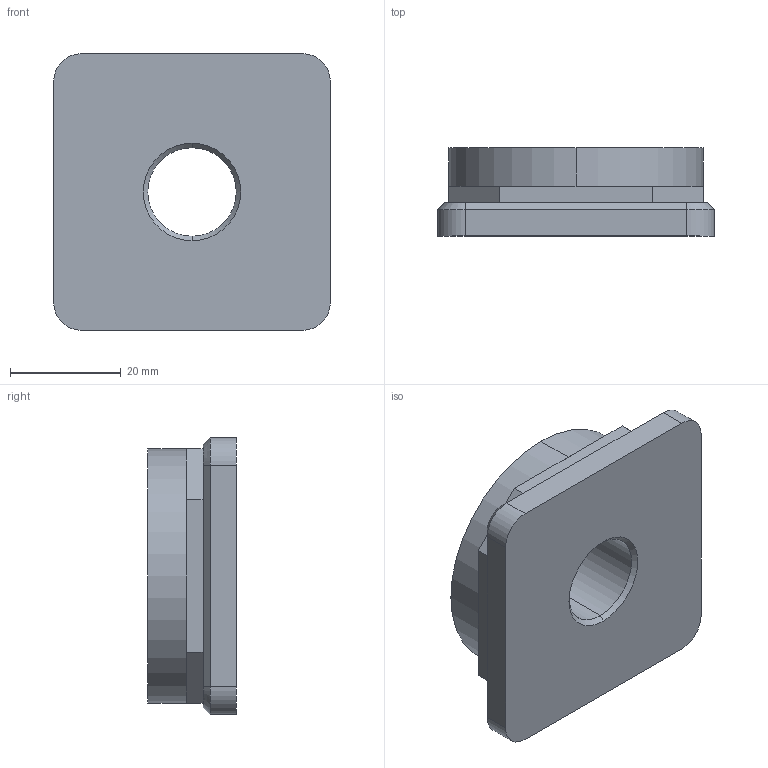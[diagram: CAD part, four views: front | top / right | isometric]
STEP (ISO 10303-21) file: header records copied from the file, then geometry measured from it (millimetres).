
FILE_DESCRIPTION (( 'STEP AP203' ), '1' );
FILE_NAME ('34670.W0050.step', '2017-06-26T08:13:56', ( 'User' ), ( '' ), 'SwSTEP 2.0', 'SolidWorks 2009', '' );
FILE_SCHEMA (( 'CONFIG_CONTROL_DESIGN' ));
Length unit declared in the file: millimetre
Products named in the file (1): 34670.W0050
Bounding box: 50 x 16 x 50 mm (x, y, z)
Volume: 28939.9 mm3; surface area: 7815.5 mm2
Topology: 1 solids, 1 shells, 39 faces, 90 edges, 54 vertices
Faces by surface type: plane 23, cone 8, cylinder 8
Entity records: 1167 total; most frequent: DIRECTION 196, CARTESIAN_POINT 184, ORIENTED_EDGE 180, EDGE_CURVE 90, AXIS2_PLACEMENT_3D 66, VECTOR 64, LINE 64, VERTEX_POINT 54
